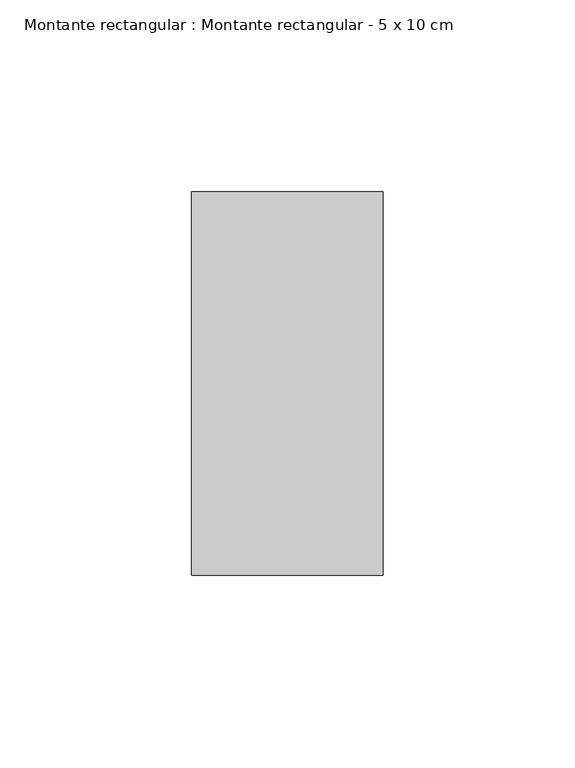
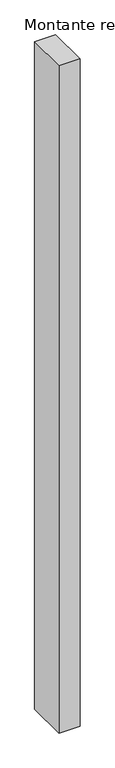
"""IFC4 building model written with IfcOpenShell, lengths in millimetres: member geometry, Montante rectangular : Montante rectangular - 5 x 10 cm."""

from ifc_helpers import new_model, si_unit, frame, origin, place, context, project, spatial, polyline, outline, extrude, source, transform, mapped, element, save


def montante_rectangular_montante_rectangular_5_x_10_cm_454d194c(model_context):
    return source(origin(), model_context, "Body", "SweptSolid", [
        extrude(outline(polyline([(0.0, 50.0), (0.0, -50.0), (-50.0, -50.0), (-50.0, 50.0), (0.0, 50.0)])), frame((0.0, 0.0, -1680.0), z_axis=(0.0, 0.0, 1.0), x_axis=(1.0, 0.0, 0.0)), (0.0, 0.0, 1.0), 1680.0),
    ])


if __name__ == "__main__":
    model = new_model("IFC4")
    model_context = context("Model", 3, world=origin())
    ifc_project = project(units=[si_unit("LENGTHUNIT", "METRE", prefix="MILLI")], contexts=[model_context])
    site = spatial("IfcSite", under=ifc_project)
    building = spatial("IfcBuilding", under=site)
    placement = place(None, origin())
    montante_rectangular_montante_rectangular_5_x_10_cm_shape = montante_rectangular_montante_rectangular_5_x_10_cm_454d194c(model_context)
    element("IfcMember", 1, ObjectType="Montante rectangular : Montante rectangular - 5 x 10 cm", at=placement, inside=building, context=model_context, shape_type="MappedRepresentation", body=[
        mapped(montante_rectangular_montante_rectangular_5_x_10_cm_shape, transform((0.0, 0.0, 0.0), x_axis=(1.0, 0.0, 0.0), y_axis=(0.0, 1.0, 0.0), z_axis=(0.0, 0.0, 1.0))),
    ])
    save(model, "model.ifc")
